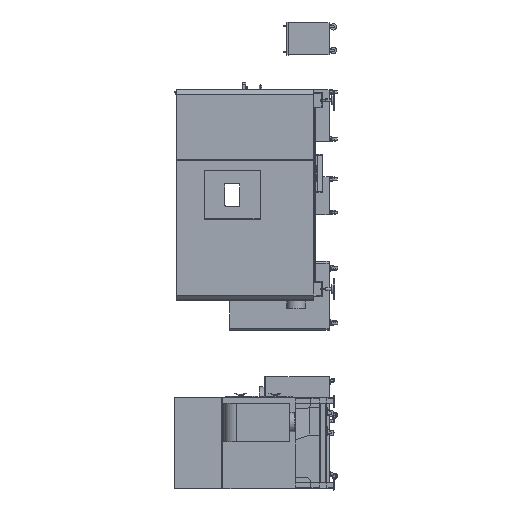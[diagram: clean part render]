
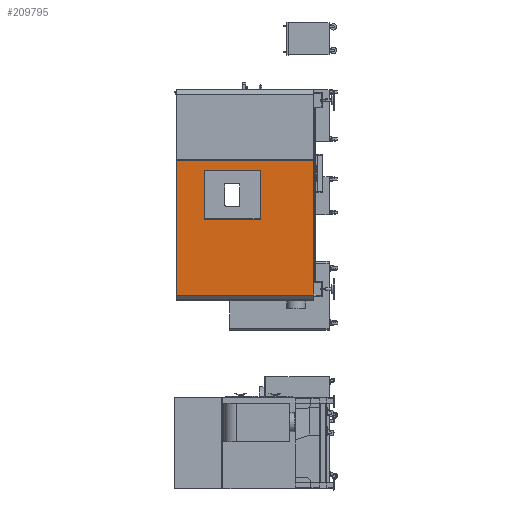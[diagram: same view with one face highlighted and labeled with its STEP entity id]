
A CAD part, left-side view. The second image highlights one B-rep face of the part: STEP entity #209795.
In plain terms, the highlighted planar face has unit normal (-1, 0, 0).
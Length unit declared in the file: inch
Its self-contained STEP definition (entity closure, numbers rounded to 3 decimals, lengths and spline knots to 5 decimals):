
#2287 = CARTESIAN_POINT ( 'NONE',  ( -55.68649, -5.6069, 54.81992 ) ) ;
#3229 = LINE ( 'NONE', #138795, #60366 ) ;
#8438 = DIRECTION ( 'NONE',  ( 0., -1., 0. ) ) ;
#20665 = CARTESIAN_POINT ( 'NONE',  ( -55.68649, 50.8498, 94.12139 ) ) ;
#27788 = CARTESIAN_POINT ( 'NONE',  ( -55.68649, -5.6069, 54.771 ) ) ;
#29535 = VERTEX_POINT ( 'NONE', #279457 ) ;
#30089 = VECTOR ( 'NONE', #314524, 39.37008 ) ;
#32669 = VECTOR ( 'NONE', #125089, 39.37008 ) ;
#33917 = VECTOR ( 'NONE', #169764, 39.37008 ) ;
#46310 = VERTEX_POINT ( 'NONE', #118006 ) ;
#47489 = CARTESIAN_POINT ( 'NONE',  ( -55.68649, 29.82617, 106.60171 ) ) ;
#60366 = VECTOR ( 'NONE', #8438, 39.37008 ) ;
#62198 = CARTESIAN_POINT ( 'NONE',  ( -55.68649, 65.25924, 54.81992 ) ) ;
#70124 = EDGE_CURVE ( 'NONE', #291687, #260297, #73112, .T. ) ;
#70338 = EDGE_CURVE ( 'NONE', #211476, #29535, #150239, .T. ) ;
#73112 = LINE ( 'NONE', #210488, #146312 ) ;
#80099 = VECTOR ( 'NONE', #173818, 39.37008 ) ;
#80204 = EDGE_CURVE ( 'NONE', #150427, #94609, #197151, .T. ) ;
#80754 = AXIS2_PLACEMENT_3D ( 'NONE', #47489, #156621, #290538 ) ;
#85189 = CARTESIAN_POINT ( 'NONE',  ( -55.68649, 50.8498, 119.08202 ) ) ;
#87621 = DIRECTION ( 'NONE',  ( 0., -1., 0. ) ) ;
#87974 = DIRECTION ( 'NONE',  ( 0., 0., 1. ) ) ;
#94609 = VERTEX_POINT ( 'NONE', #165534 ) ;
#96970 = VECTOR ( 'NONE', #135244, 39.37008 ) ;
#99781 = VECTOR ( 'NONE', #87974, 39.37008 ) ;
#105745 = CARTESIAN_POINT ( 'NONE',  ( -55.68649, -5.52, 124.53478 ) ) ;
#109487 = CARTESIAN_POINT ( 'NONE',  ( -55.68649, 21.95216, 94.12139 ) ) ;
#112562 = EDGE_CURVE ( 'NONE', #211476, #266665, #136910, .T. ) ;
#115606 = EDGE_CURVE ( 'NONE', #266665, #290586, #346625, .T. ) ;
#115913 = EDGE_CURVE ( 'NONE', #46310, #215415, #175549, .T. ) ;
#118006 = CARTESIAN_POINT ( 'NONE',  ( -55.68649, 21.95216, 119.08202 ) ) ;
#119509 = VECTOR ( 'NONE', #213200, 39.37008 ) ;
#121378 = ORIENTED_EDGE ( 'NONE', *, *, #70338, .F. ) ;
#125089 = DIRECTION ( 'NONE',  ( 0., 1., 0. ) ) ;
#126464 = CARTESIAN_POINT ( 'NONE',  ( -55.68649, -5.6069, 55.60732 ) ) ;
#135244 = DIRECTION ( 'NONE',  ( 0., 0., 1. ) ) ;
#136910 = LINE ( 'NONE', #244421, #258470 ) ;
#138795 = CARTESIAN_POINT ( 'NONE',  ( -55.68649, 65.25924, 55.60732 ) ) ;
#141524 = EDGE_CURVE ( 'NONE', #260297, #46310, #265213, .T. ) ;
#146312 = VECTOR ( 'NONE', #180571, 39.37008 ) ;
#148044 = CARTESIAN_POINT ( 'NONE',  ( -55.68649, 29.82617, 94.12139 ) ) ;
#150239 = LINE ( 'NONE', #257763, #33917 ) ;
#150427 = VERTEX_POINT ( 'NONE', #250725 ) ;
#153960 = ORIENTED_EDGE ( 'NONE', *, *, #80204, .T. ) ;
#154232 = CARTESIAN_POINT ( 'NONE',  ( -55.68649, 29.82617, 119.08202 ) ) ;
#154893 = FACE_OUTER_BOUND ( 'NONE', #276628, .T. ) ;
#156621 = DIRECTION ( 'NONE',  ( 1., 0., 0. ) ) ;
#164182 = ORIENTED_EDGE ( 'NONE', *, *, #70124, .T. ) ;
#165534 = CARTESIAN_POINT ( 'NONE',  ( -55.68649, -5.48879, 124.53478 ) ) ;
#165747 = EDGE_LOOP ( 'NONE', ( #215434, #290672, #164182, #173437 ) ) ;
#169764 = DIRECTION ( 'NONE',  ( 0., 0., 1. ) ) ;
#173437 = ORIENTED_EDGE ( 'NONE', *, *, #141524, .T. ) ;
#173818 = DIRECTION ( 'NONE',  ( 0., 0., -1. ) ) ;
#175549 = LINE ( 'NONE', #179017, #80099 ) ;
#177908 = FACE_BOUND ( 'NONE', #165747, .T. ) ;
#179017 = CARTESIAN_POINT ( 'NONE',  ( -55.68649, 21.95216, 106.60171 ) ) ;
#180571 = DIRECTION ( 'NONE',  ( 0., 0., 1. ) ) ;
#195409 = CARTESIAN_POINT ( 'NONE',  ( -55.68649, -5.48879, 88.63742 ) ) ;
#197151 = LINE ( 'NONE', #195409, #99781 ) ;
#201909 = ORIENTED_EDGE ( 'NONE', *, *, #115606, .T. ) ;
#206302 = ORIENTED_EDGE ( 'NONE', *, *, #112562, .T. ) ;
#209550 = PLANE ( 'NONE',  #80754 ) ;
#209795 = ADVANCED_FACE ( 'NONE', ( #177908, #154893 ), #209550, .F. ) ;
#210488 = CARTESIAN_POINT ( 'NONE',  ( -55.68649, 50.8498, 106.60171 ) ) ;
#211476 = VERTEX_POINT ( 'NONE', #62198 ) ;
#213200 = DIRECTION ( 'NONE',  ( 0., 1., 0. ) ) ;
#215415 = VERTEX_POINT ( 'NONE', #109487 ) ;
#215434 = ORIENTED_EDGE ( 'NONE', *, *, #115913, .T. ) ;
#218975 = EDGE_CURVE ( 'NONE', #94609, #29535, #267799, .T. ) ;
#228181 = EDGE_CURVE ( 'NONE', #215415, #291687, #257311, .T. ) ;
#240449 = EDGE_CURVE ( 'NONE', #150427, #290586, #3229, .T. ) ;
#244421 = CARTESIAN_POINT ( 'NONE',  ( -55.68649, 65.25924, 54.81992 ) ) ;
#250725 = CARTESIAN_POINT ( 'NONE',  ( -55.68649, -5.48879, 55.60732 ) ) ;
#257311 = LINE ( 'NONE', #148044, #32669 ) ;
#257763 = CARTESIAN_POINT ( 'NONE',  ( -55.68649, 65.25924, 124.65289 ) ) ;
#258470 = VECTOR ( 'NONE', #87621, 39.37008 ) ;
#260297 = VERTEX_POINT ( 'NONE', #85189 ) ;
#265213 = LINE ( 'NONE', #154232, #30089 ) ;
#266665 = VERTEX_POINT ( 'NONE', #2287 ) ;
#267799 = LINE ( 'NONE', #105745, #119509 ) ;
#276628 = EDGE_LOOP ( 'NONE', ( #121378, #206302, #201909, #303086, #153960, #335501 ) ) ;
#279457 = CARTESIAN_POINT ( 'NONE',  ( -55.68649, 65.25924, 124.53478 ) ) ;
#290538 = DIRECTION ( 'NONE',  ( 0., -1., 0. ) ) ;
#290586 = VERTEX_POINT ( 'NONE', #126464 ) ;
#290672 = ORIENTED_EDGE ( 'NONE', *, *, #228181, .T. ) ;
#291687 = VERTEX_POINT ( 'NONE', #20665 ) ;
#303086 = ORIENTED_EDGE ( 'NONE', *, *, #240449, .F. ) ;
#314524 = DIRECTION ( 'NONE',  ( 0., -1., 0. ) ) ;
#335501 = ORIENTED_EDGE ( 'NONE', *, *, #218975, .T. ) ;
#346625 = LINE ( 'NONE', #27788, #96970 ) ;
